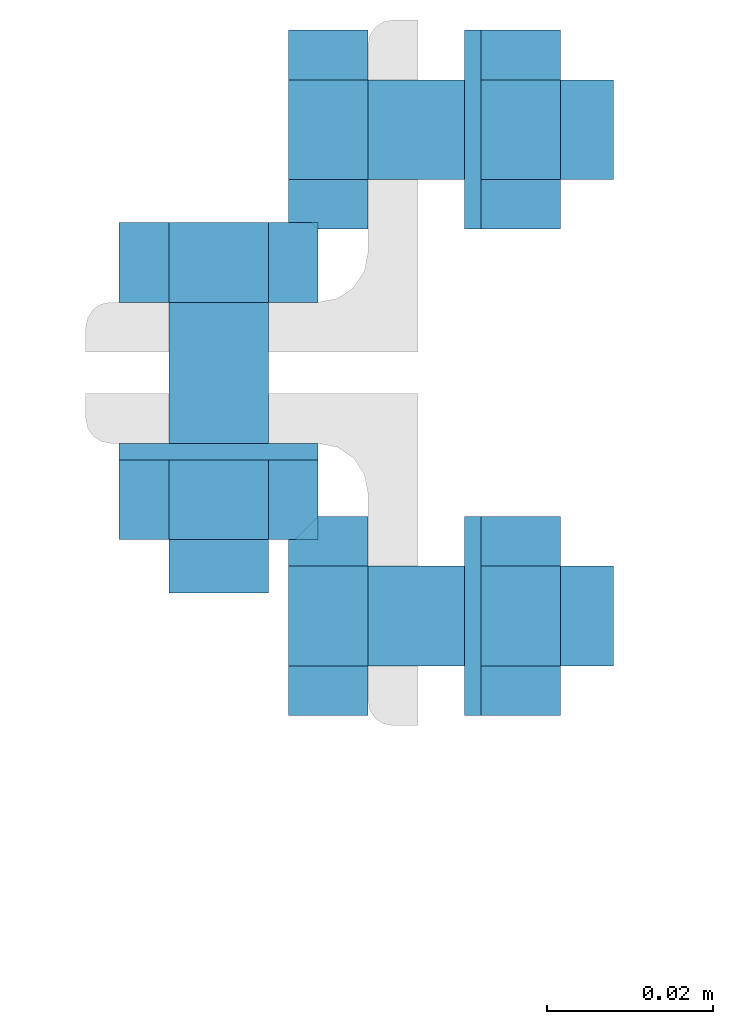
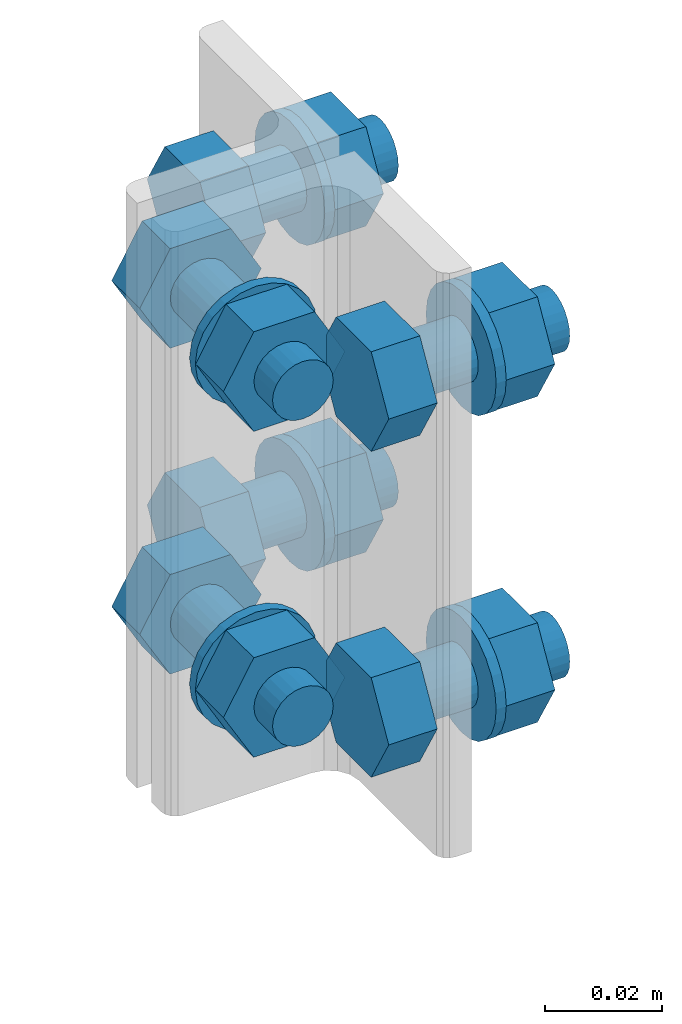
# One storey, part 20 of 20: 32 mechanical fasteners.
"""IFC4 building model written with IfcOpenShell, lengths in metres."""

from ifc_helpers import new_model, si_unit, frame, origin_with_axes, place, context, project, spatial, polyline, outline, extrude, type_object, element, save


model = new_model("IFC4")

# Units and contexts
model_context = context("Model", 3, precision=1e-05, world=origin_with_axes())
ifc_project = project(units=[si_unit("LENGTHUNIT", "METRE"), si_unit("AREAUNIT", "SQUARE_METRE"), si_unit("VOLUMEUNIT", "CUBIC_METRE"), si_unit("MASSUNIT", "GRAM", prefix="KILO"), si_unit("TIMEUNIT", "SECOND"), si_unit("PLANEANGLEUNIT", "RADIAN"), si_unit("SOLIDANGLEUNIT", "STERADIAN"), si_unit("THERMODYNAMICTEMPERATUREUNIT", "DEGREE_CELSIUS")], contexts=[model_context])

# Site, building, storey
placement_1 = place(None, origin_with_axes())
site = spatial("IfcSite", under=ifc_project, at=placement_1, Name="Italia", CompositionType="ELEMENT")
building = spatial("IfcBuilding", under=site, at=placement_1, Name="Tettoia", CompositionType="ELEMENT")
storey = spatial("IfcBuildingStorey", under=building, at=placement_1, Name="Storey 0", CompositionType="ELEMENT", Elevation=0.0)

# Mechanical fasteners
mechanical_fastener_type_1 = type_object("IfcMechanicalFastenerType", Name="Collegamento 0125_0124", PredefinedType="BOLT")
placement_2 = place(placement_1, origin_with_axes())
mechanical_fastener_1_placement = place(placement_2, origin_with_axes())
element("IfcMechanicalFastener", 1, at=mechanical_fastener_1_placement, inside=storey, type_object=mechanical_fastener_type_1, Name="Collegamento 0125_0124", NominalDiameter=0.0119997, context=model_context, shape_type="SweptSolid", body=[
    extrude(outline(polyline([(0.0, 0.0), (-0.0120001, 0.0), (-0.0180001, 0.0103922), (-0.0120001, 0.0207844), (0.0, 0.0207844), (0.00599957, 0.0103922), (0.0, 0.0)])), frame((4.0372, 21.0285, 4.25561), z_axis=(0.0, 1.0, 0.0), x_axis=(-1.0, 0.0, 0.0)), (0.0, 0.0, 1.0), 0.00960159),
])
mechanical_fastener_type_2 = type_object("IfcMechanicalFastenerType", Name="Collegamento 0125_0124", PredefinedType="BOLT")
mechanical_fastener_2_placement = place(placement_2, origin_with_axes())
element("IfcMechanicalFastener", 2, at=mechanical_fastener_2_placement, inside=storey, type_object=mechanical_fastener_type_2, Name="Collegamento 0125_0124", NominalDiameter=0.012, context=model_context, shape_type="SweptSolid", body=[
    extrude(outline(polyline([(0.0, 0.0), (-0.000204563, -0.00155306), (-0.000803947, -0.00299978), (-0.00175762, -0.00424242), (-0.00300026, -0.00519609), (-0.00444698, -0.00579548), (-0.00600004, -0.00600004), (-0.0075531, -0.00579548), (-0.00899982, -0.00519609), (-0.0102425, -0.00424242), (-0.0111961, -0.00299978), (-0.0117955, -0.00155306), (-0.0120001, 0.0), (-0.0117955, 0.00155306), (-0.0111961, 0.00299978), (-0.0102425, 0.00424242), (-0.00899982, 0.00519609), (-0.0075531, 0.00579548), (-0.00600004, 0.00600004), (-0.00444698, 0.00579548), (-0.00300026, 0.00519609), (-0.00175762, 0.00424242), (-0.000803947, 0.00299978), (-0.000204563, 0.00155306), (0.0, 0.0)])), frame((4.0372, 20.9935, 4.266), z_axis=(0.0, 1.0, 0.0), x_axis=(-1.0, 0.0, 0.0)), (0.0, 0.0, 1.0), 0.0349998),
])
mechanical_fastener_type_3 = type_object("IfcMechanicalFastenerType", Name="Collegamento 0125_0124", PredefinedType="BOLT")
mechanical_fastener_3_placement = place(placement_2, origin_with_axes())
element("IfcMechanicalFastener", 3, at=mechanical_fastener_3_placement, inside=storey, type_object=mechanical_fastener_type_3, Name="Collegamento 0125_0124", NominalDiameter=0.0119997, context=model_context, shape_type="SweptSolid", body=[
    extrude(outline(polyline([(0.0, 0.0), (-0.0120001, 0.0), (-0.0180001, 0.0103922), (-0.0120001, 0.0207844), (0.0, 0.0207844), (0.00599957, 0.0103922), (0.0, 0.0)])), frame((4.0372, 20.9999, 4.25561), z_axis=(0.0, 1.0, 0.0), x_axis=(-1.0, 0.0, 0.0)), (0.0, 0.0, 1.0), 0.00959969),
])
mechanical_fastener_type_4 = type_object("IfcMechanicalFastenerType", Name="Collegamento 0125_0124", PredefinedType="BOLT")
mechanical_fastener_4_placement = place(placement_2, origin_with_axes())
element("IfcMechanicalFastener", 4, at=mechanical_fastener_4_placement, inside=storey, type_object=mechanical_fastener_type_4, Name="Collegamento 0125_0124", NominalDiameter=0.024, context=model_context, shape_type="SweptSolid", body=[
    extrude(outline(polyline([(0.0, 0.0), (-0.000409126, -0.00310564), (-0.00160789, -0.00600004), (-0.00351477, -0.00848532), (-0.00600004, -0.0103922), (-0.00889444, -0.011591), (-0.0120001, -0.0120001), (-0.0151057, -0.011591), (-0.0180001, -0.0103922), (-0.0204854, -0.00848532), (-0.0223923, -0.00600004), (-0.023591, -0.00310564), (-0.0240002, 0.0), (-0.023591, 0.00310564), (-0.0223923, 0.00600004), (-0.0204854, 0.00848532), (-0.0180001, 0.0103922), (-0.0151057, 0.011591), (-0.0120001, 0.0120001), (-0.00889444, 0.011591), (-0.00600004, 0.0103922), (-0.00351477, 0.00848532), (-0.00160789, 0.00600004), (-0.000409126, 0.00310564), (0.0, 0.0)])), frame((4.0312, 21.0095, 4.266), z_axis=(0.0, 1.0, 0.0), x_axis=(-1.0, 0.0, 0.0)), (0.0, 0.0, 1.0), 0.00200081),
])
mechanical_fastener_type_5 = type_object("IfcMechanicalFastenerType", Name="Collegamento 0125_0124", PredefinedType="BOLT")
mechanical_fastener_5_placement = place(placement_2, origin_with_axes())
element("IfcMechanicalFastener", 5, at=mechanical_fastener_5_placement, inside=storey, type_object=mechanical_fastener_type_5, Name="Collegamento 0125_0124", NominalDiameter=0.0119997, context=model_context, shape_type="SweptSolid", body=[
    extrude(outline(polyline([(0.0, 0.0), (-0.0120001, 0.0), (-0.0180001, 0.0103922), (-0.0120001, 0.0207844), (0.0, 0.0207844), (0.00599957, 0.0103922), (0.0, 0.0)])), frame((4.0372, 21.0285, 4.32361), z_axis=(0.0, 1.0, 0.0), x_axis=(-1.0, 0.0, 0.0)), (0.0, 0.0, 1.0), 0.00960159),
])
mechanical_fastener_type_6 = type_object("IfcMechanicalFastenerType", Name="Collegamento 0125_0124", PredefinedType="BOLT")
mechanical_fastener_6_placement = place(placement_2, origin_with_axes())
element("IfcMechanicalFastener", 6, at=mechanical_fastener_6_placement, inside=storey, type_object=mechanical_fastener_type_6, Name="Collegamento 0125_0124", NominalDiameter=0.012, context=model_context, shape_type="SweptSolid", body=[
    extrude(outline(polyline([(0.0, 0.0), (-0.000204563, -0.00155306), (-0.000803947, -0.00299978), (-0.00175762, -0.00424242), (-0.00300026, -0.00519609), (-0.00444698, -0.00579548), (-0.00600004, -0.00600004), (-0.0075531, -0.00579548), (-0.00899982, -0.00519609), (-0.0102425, -0.00424242), (-0.0111961, -0.00299978), (-0.0117955, -0.00155306), (-0.0120001, 0.0), (-0.0117955, 0.00155306), (-0.0111961, 0.00299978), (-0.0102425, 0.00424242), (-0.00899982, 0.00519609), (-0.0075531, 0.00579548), (-0.00600004, 0.00600004), (-0.00444698, 0.00579548), (-0.00300026, 0.00519609), (-0.00175762, 0.00424242), (-0.000803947, 0.00299978), (-0.000204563, 0.00155306), (0.0, 0.0)])), frame((4.0372, 20.9935, 4.334), z_axis=(0.0, 1.0, 0.0), x_axis=(-1.0, 0.0, 0.0)), (0.0, 0.0, 1.0), 0.0349998),
])
mechanical_fastener_type_7 = type_object("IfcMechanicalFastenerType", Name="Collegamento 0125_0124", PredefinedType="BOLT")
mechanical_fastener_7_placement = place(placement_2, origin_with_axes())
element("IfcMechanicalFastener", 7, at=mechanical_fastener_7_placement, inside=storey, type_object=mechanical_fastener_type_7, Name="Collegamento 0125_0124", NominalDiameter=0.0119997, context=model_context, shape_type="SweptSolid", body=[
    extrude(outline(polyline([(0.0, 0.0), (-0.0120001, 0.0), (-0.0180001, 0.0103922), (-0.0120001, 0.0207844), (0.0, 0.0207844), (0.00599957, 0.0103922), (0.0, 0.0)])), frame((4.0372, 20.9999, 4.32361), z_axis=(0.0, 1.0, 0.0), x_axis=(-1.0, 0.0, 0.0)), (0.0, 0.0, 1.0), 0.00959969),
])
mechanical_fastener_type_8 = type_object("IfcMechanicalFastenerType", Name="Collegamento 0125_0124", PredefinedType="BOLT")
mechanical_fastener_8_placement = place(placement_2, origin_with_axes())
element("IfcMechanicalFastener", 8, at=mechanical_fastener_8_placement, inside=storey, type_object=mechanical_fastener_type_8, Name="Collegamento 0125_0124", NominalDiameter=0.024, context=model_context, shape_type="SweptSolid", body=[
    extrude(outline(polyline([(0.0, 0.0), (-0.000409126, -0.00310564), (-0.00160789, -0.00600004), (-0.00351477, -0.00848532), (-0.00600004, -0.0103922), (-0.00889444, -0.011591), (-0.0120001, -0.0120001), (-0.0151057, -0.011591), (-0.0180001, -0.0103922), (-0.0204854, -0.00848532), (-0.0223923, -0.00600004), (-0.023591, -0.00310564), (-0.0240002, 0.0), (-0.023591, 0.00310564), (-0.0223923, 0.00600004), (-0.0204854, 0.00848532), (-0.0180001, 0.0103922), (-0.0151057, 0.011591), (-0.0120001, 0.0120001), (-0.00889444, 0.011591), (-0.00600004, 0.0103922), (-0.00351477, 0.00848532), (-0.00160789, 0.00600004), (-0.000409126, 0.00310564), (0.0, 0.0)])), frame((4.0312, 21.0095, 4.334), z_axis=(0.0, 1.0, 0.0), x_axis=(-1.0, 0.0, 0.0)), (0.0, 0.0, 1.0), 0.00200081),
])
mechanical_fastener_type_9 = type_object("IfcMechanicalFastenerType", Name="Collegamento 0125_0124", PredefinedType="BOLT")
mechanical_fastener_9_placement = place(placement_2, origin_with_axes())
element("IfcMechanicalFastener", 9, at=mechanical_fastener_9_placement, inside=storey, type_object=mechanical_fastener_type_9, Name="Collegamento 0125_0124", NominalDiameter=0.0119997, context=model_context, shape_type="SweptSolid", body=[
    extrude(outline(polyline([(0.0, 0.0), (-0.0120001, 0.0), (-0.0180001, 0.0103922), (-0.0120001, 0.0207844), (0.0, 0.0207844), (0.00599957, 0.0103922), (0.0, 0.0)])), frame((4.0372, 21.0285, 4.25561), z_axis=(0.0, 1.0, 0.0), x_axis=(-1.0, 0.0, 0.0)), (0.0, 0.0, 1.0), 0.00960159),
])
mechanical_fastener_type_10 = type_object("IfcMechanicalFastenerType", Name="Collegamento 0125_0124", PredefinedType="BOLT")
mechanical_fastener_10_placement = place(placement_2, origin_with_axes())
element("IfcMechanicalFastener", 10, at=mechanical_fastener_10_placement, inside=storey, type_object=mechanical_fastener_type_10, Name="Collegamento 0125_0124", NominalDiameter=0.012, context=model_context, shape_type="SweptSolid", body=[
    extrude(outline(polyline([(0.0, 0.0), (-0.000204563, -0.00155306), (-0.000803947, -0.00299978), (-0.00175762, -0.00424242), (-0.00300026, -0.00519609), (-0.00444698, -0.00579548), (-0.00600004, -0.00600004), (-0.0075531, -0.00579548), (-0.00899982, -0.00519609), (-0.0102425, -0.00424242), (-0.0111961, -0.00299978), (-0.0117955, -0.00155306), (-0.0120001, 0.0), (-0.0117955, 0.00155306), (-0.0111961, 0.00299978), (-0.0102425, 0.00424242), (-0.00899982, 0.00519609), (-0.0075531, 0.00579548), (-0.00600004, 0.00600004), (-0.00444698, 0.00579548), (-0.00300026, 0.00519609), (-0.00175762, 0.00424242), (-0.000803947, 0.00299978), (-0.000204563, 0.00155306), (0.0, 0.0)])), frame((4.0372, 20.9935, 4.266), z_axis=(0.0, 1.0, 0.0), x_axis=(-1.0, 0.0, 0.0)), (0.0, 0.0, 1.0), 0.0349998),
])
mechanical_fastener_type_11 = type_object("IfcMechanicalFastenerType", Name="Collegamento 0125_0124", PredefinedType="BOLT")
mechanical_fastener_11_placement = place(placement_2, origin_with_axes())
element("IfcMechanicalFastener", 11, at=mechanical_fastener_11_placement, inside=storey, type_object=mechanical_fastener_type_11, Name="Collegamento 0125_0124", NominalDiameter=0.0119997, context=model_context, shape_type="SweptSolid", body=[
    extrude(outline(polyline([(0.0, 0.0), (-0.0120001, 0.0), (-0.0180001, 0.0103922), (-0.0120001, 0.0207844), (0.0, 0.0207844), (0.00599957, 0.0103922), (0.0, 0.0)])), frame((4.0372, 20.9999, 4.25561), z_axis=(0.0, 1.0, 0.0), x_axis=(-1.0, 0.0, 0.0)), (0.0, 0.0, 1.0), 0.00959969),
])
mechanical_fastener_type_12 = type_object("IfcMechanicalFastenerType", Name="Collegamento 0125_0124", PredefinedType="BOLT")
mechanical_fastener_12_placement = place(placement_2, origin_with_axes())
element("IfcMechanicalFastener", 12, at=mechanical_fastener_12_placement, inside=storey, type_object=mechanical_fastener_type_12, Name="Collegamento 0125_0124", NominalDiameter=0.024, context=model_context, shape_type="SweptSolid", body=[
    extrude(outline(polyline([(0.0, 0.0), (-0.000409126, -0.00310564), (-0.00160789, -0.00600004), (-0.00351477, -0.00848532), (-0.00600004, -0.0103922), (-0.00889444, -0.011591), (-0.0120001, -0.0120001), (-0.0151057, -0.011591), (-0.0180001, -0.0103922), (-0.0204854, -0.00848532), (-0.0223923, -0.00600004), (-0.023591, -0.00310564), (-0.0240002, 0.0), (-0.023591, 0.00310564), (-0.0223923, 0.00600004), (-0.0204854, 0.00848532), (-0.0180001, 0.0103922), (-0.0151057, 0.011591), (-0.0120001, 0.0120001), (-0.00889444, 0.011591), (-0.00600004, 0.0103922), (-0.00351477, 0.00848532), (-0.00160789, 0.00600004), (-0.000409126, 0.00310564), (0.0, 0.0)])), frame((4.0312, 21.0095, 4.266), z_axis=(0.0, 1.0, 0.0), x_axis=(-1.0, 0.0, 0.0)), (0.0, 0.0, 1.0), 0.00200081),
])
mechanical_fastener_type_13 = type_object("IfcMechanicalFastenerType", Name="Collegamento 0125_0124", PredefinedType="BOLT")
mechanical_fastener_13_placement = place(placement_2, origin_with_axes())
element("IfcMechanicalFastener", 13, at=mechanical_fastener_13_placement, inside=storey, type_object=mechanical_fastener_type_13, Name="Collegamento 0125_0124", NominalDiameter=0.0119997, context=model_context, shape_type="SweptSolid", body=[
    extrude(outline(polyline([(0.0, 0.0), (-0.0120001, 0.0), (-0.0180001, 0.0103922), (-0.0120001, 0.0207844), (0.0, 0.0207844), (0.00599957, 0.0103922), (0.0, 0.0)])), frame((4.0372, 21.0285, 4.32361), z_axis=(0.0, 1.0, 0.0), x_axis=(-1.0, 0.0, 0.0)), (0.0, 0.0, 1.0), 0.00960159),
])
mechanical_fastener_type_14 = type_object("IfcMechanicalFastenerType", Name="Collegamento 0125_0124", PredefinedType="BOLT")
mechanical_fastener_14_placement = place(placement_2, origin_with_axes())
element("IfcMechanicalFastener", 14, at=mechanical_fastener_14_placement, inside=storey, type_object=mechanical_fastener_type_14, Name="Collegamento 0125_0124", NominalDiameter=0.012, context=model_context, shape_type="SweptSolid", body=[
    extrude(outline(polyline([(0.0, 0.0), (-0.000204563, -0.00155306), (-0.000803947, -0.00299978), (-0.00175762, -0.00424242), (-0.00300026, -0.00519609), (-0.00444698, -0.00579548), (-0.00600004, -0.00600004), (-0.0075531, -0.00579548), (-0.00899982, -0.00519609), (-0.0102425, -0.00424242), (-0.0111961, -0.00299978), (-0.0117955, -0.00155306), (-0.0120001, 0.0), (-0.0117955, 0.00155306), (-0.0111961, 0.00299978), (-0.0102425, 0.00424242), (-0.00899982, 0.00519609), (-0.0075531, 0.00579548), (-0.00600004, 0.00600004), (-0.00444698, 0.00579548), (-0.00300026, 0.00519609), (-0.00175762, 0.00424242), (-0.000803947, 0.00299978), (-0.000204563, 0.00155306), (0.0, 0.0)])), frame((4.0372, 20.9935, 4.334), z_axis=(0.0, 1.0, 0.0), x_axis=(-1.0, 0.0, 0.0)), (0.0, 0.0, 1.0), 0.0349998),
])
mechanical_fastener_type_15 = type_object("IfcMechanicalFastenerType", Name="Collegamento 0125_0124", PredefinedType="BOLT")
mechanical_fastener_15_placement = place(placement_2, origin_with_axes())
element("IfcMechanicalFastener", 15, at=mechanical_fastener_15_placement, inside=storey, type_object=mechanical_fastener_type_15, Name="Collegamento 0125_0124", NominalDiameter=0.0119997, context=model_context, shape_type="SweptSolid", body=[
    extrude(outline(polyline([(0.0, 0.0), (-0.0120001, 0.0), (-0.0180001, 0.0103922), (-0.0120001, 0.0207844), (0.0, 0.0207844), (0.00599957, 0.0103922), (0.0, 0.0)])), frame((4.0372, 20.9999, 4.32361), z_axis=(0.0, 1.0, 0.0), x_axis=(-1.0, 0.0, 0.0)), (0.0, 0.0, 1.0), 0.00959969),
])
mechanical_fastener_type_16 = type_object("IfcMechanicalFastenerType", Name="Collegamento 0125_0124", PredefinedType="BOLT")
mechanical_fastener_16_placement = place(placement_2, origin_with_axes())
element("IfcMechanicalFastener", 16, at=mechanical_fastener_16_placement, inside=storey, type_object=mechanical_fastener_type_16, Name="Collegamento 0125_0124", NominalDiameter=0.024, context=model_context, shape_type="SweptSolid", body=[
    extrude(outline(polyline([(0.0, 0.0), (-0.000409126, -0.00310564), (-0.00160789, -0.00600004), (-0.00351477, -0.00848532), (-0.00600004, -0.0103922), (-0.00889444, -0.011591), (-0.0120001, -0.0120001), (-0.0151057, -0.011591), (-0.0180001, -0.0103922), (-0.0204854, -0.00848532), (-0.0223923, -0.00600004), (-0.023591, -0.00310564), (-0.0240002, 0.0), (-0.023591, 0.00310564), (-0.0223923, 0.00600004), (-0.0204854, 0.00848532), (-0.0180001, 0.0103922), (-0.0151057, 0.011591), (-0.0120001, 0.0120001), (-0.00889444, 0.011591), (-0.00600004, 0.0103922), (-0.00351477, 0.00848532), (-0.00160789, 0.00600004), (-0.000409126, 0.00310564), (0.0, 0.0)])), frame((4.0312, 21.0095, 4.334), z_axis=(0.0, 1.0, 0.0), x_axis=(-1.0, 0.0, 0.0)), (0.0, 0.0, 1.0), 0.00200081),
])
mechanical_fastener_type_17 = type_object("IfcMechanicalFastenerType", Name="Collegamento 0125_0124", PredefinedType="BOLT")
mechanical_fastener_17_placement = place(placement_2, origin_with_axes())
element("IfcMechanicalFastener", 17, at=mechanical_fastener_17_placement, inside=storey, type_object=mechanical_fastener_type_17, Name="Collegamento 0125_0124", NominalDiameter=0.0119991, context=model_context, shape_type="SweptSolid", body=[
    extrude(outline(polyline([(0.0, 0.0), (-0.0119991, 0.0), (-0.0179996, 0.0103922), (-0.0119991, 0.0207844), (0.0, 0.0207844), (0.00600052, 0.0103922), (0.0, 0.0)])), frame((4.0612, 20.9847, 4.25561), z_axis=(-1.0, 0.0, 0.0), x_axis=(0.0, -1.0, 0.0)), (0.0, 0.0, 1.0), 0.00960016),
])
mechanical_fastener_type_18 = type_object("IfcMechanicalFastenerType", Name="Collegamento 0125_0124", PredefinedType="BOLT")
mechanical_fastener_18_placement = place(placement_2, origin_with_axes())
element("IfcMechanicalFastener", 18, at=mechanical_fastener_18_placement, inside=storey, type_object=mechanical_fastener_type_18, Name="Collegamento 0125_0124", NominalDiameter=0.012, context=model_context, shape_type="SweptSolid", body=[
    extrude(outline(polyline([(0.0, 0.0), (-0.000204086, -0.00155306), (-0.000804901, -0.00299978), (-0.00175858, -0.00424242), (-0.00300026, -0.00519609), (-0.00444794, -0.00579548), (-0.00600052, -0.00600004), (-0.0075531, -0.00579548), (-0.00900078, -0.00519609), (-0.0102425, -0.00424242), (-0.0111961, -0.00299978), (-0.011797, -0.00155306), (-0.012001, 0.0), (-0.011797, 0.00155306), (-0.0111961, 0.00299978), (-0.0102425, 0.00424242), (-0.00900078, 0.00519609), (-0.0075531, 0.00579548), (-0.00600052, 0.00600004), (-0.00444794, 0.00579548), (-0.00300026, 0.00519609), (-0.00175858, 0.00424242), (-0.000804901, 0.00299978), (-0.000204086, 0.00155306), (0.0, 0.0)])), frame((4.0908, 20.9847, 4.266), z_axis=(-1.0, 0.0, 0.0), x_axis=(0.0, -1.0, 0.0)), (0.0, 0.0, 1.0), 0.0296001),
])
mechanical_fastener_type_19 = type_object("IfcMechanicalFastenerType", Name="Collegamento 0125_0124", PredefinedType="BOLT")
mechanical_fastener_19_placement = place(placement_2, origin_with_axes())
element("IfcMechanicalFastener", 19, at=mechanical_fastener_19_placement, inside=storey, type_object=mechanical_fastener_type_19, Name="Collegamento 0125_0124", NominalDiameter=0.0119991, context=model_context, shape_type="SweptSolid", body=[
    extrude(outline(polyline([(0.0, 0.0), (-0.0119991, 0.0), (-0.0179996, 0.0103922), (-0.0119991, 0.0207844), (0.0, 0.0207844), (0.00600052, 0.0103922), (0.0, 0.0)])), frame((4.0844, 20.9847, 4.25561), z_axis=(-1.0, 0.0, 0.0), x_axis=(0.0, -1.0, 0.0)), (0.0, 0.0, 1.0), 0.00960016),
])
mechanical_fastener_type_20 = type_object("IfcMechanicalFastenerType", Name="Collegamento 0125_0124", PredefinedType="BOLT")
mechanical_fastener_20_placement = place(placement_2, origin_with_axes())
element("IfcMechanicalFastener", 20, at=mechanical_fastener_20_placement, inside=storey, type_object=mechanical_fastener_type_20, Name="Collegamento 0125_0124", NominalDiameter=0.024, context=model_context, shape_type="SweptSolid", body=[
    extrude(outline(polyline([(0.0, 0.0), (-0.000408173, -0.00310564), (-0.00160599, -0.00600004), (-0.00351334, -0.00848532), (-0.00599861, -0.0103922), (-0.00889397, -0.011591), (-0.0119991, -0.0120001), (-0.0151043, -0.011591), (-0.0179996, -0.0103922), (-0.0204849, -0.00848532), (-0.0223923, -0.00600004), (-0.0235901, -0.00310564), (-0.0239983, 0.0), (-0.0235901, 0.00310564), (-0.0223923, 0.00600004), (-0.0204849, 0.00848532), (-0.0179996, 0.0103922), (-0.0151043, 0.011591), (-0.0119991, 0.0120001), (-0.00889397, 0.011591), (-0.00599861, 0.0103922), (-0.00351334, 0.00848532), (-0.00160599, 0.00600004), (-0.000408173, 0.00310564), (0.0, 0.0)])), frame((4.0748, 20.9787, 4.266), z_axis=(-1.0, 0.0, 0.0), x_axis=(0.0, -1.0, 0.0)), (0.0, 0.0, 1.0), 0.00199986),
])
mechanical_fastener_type_21 = type_object("IfcMechanicalFastenerType", Name="Collegamento 0125_0124", PredefinedType="BOLT")
mechanical_fastener_21_placement = place(placement_2, origin_with_axes())
element("IfcMechanicalFastener", 21, at=mechanical_fastener_21_placement, inside=storey, type_object=mechanical_fastener_type_21, Name="Collegamento 0125_0124", NominalDiameter=0.0119991, context=model_context, shape_type="SweptSolid", body=[
    extrude(outline(polyline([(0.0, 0.0), (-0.0119991, 0.0), (-0.0179996, 0.0103922), (-0.0119991, 0.0207844), (0.0, 0.0207844), (0.00600052, 0.0103922), (0.0, 0.0)])), frame((4.0612, 20.9847, 4.32361), z_axis=(-1.0, 0.0, 0.0), x_axis=(0.0, -1.0, 0.0)), (0.0, 0.0, 1.0), 0.00960016),
])
mechanical_fastener_type_22 = type_object("IfcMechanicalFastenerType", Name="Collegamento 0125_0124", PredefinedType="BOLT")
mechanical_fastener_22_placement = place(placement_2, origin_with_axes())
element("IfcMechanicalFastener", 22, at=mechanical_fastener_22_placement, inside=storey, type_object=mechanical_fastener_type_22, Name="Collegamento 0125_0124", NominalDiameter=0.012, context=model_context, shape_type="SweptSolid", body=[
    extrude(outline(polyline([(0.0, 0.0), (-0.000204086, -0.00155306), (-0.000804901, -0.00299978), (-0.00175858, -0.00424242), (-0.00300026, -0.00519609), (-0.00444794, -0.00579548), (-0.00600052, -0.00600004), (-0.0075531, -0.00579548), (-0.00900078, -0.00519609), (-0.0102425, -0.00424242), (-0.0111961, -0.00299978), (-0.011797, -0.00155306), (-0.012001, 0.0), (-0.011797, 0.00155306), (-0.0111961, 0.00299978), (-0.0102425, 0.00424242), (-0.00900078, 0.00519609), (-0.0075531, 0.00579548), (-0.00600052, 0.00600004), (-0.00444794, 0.00579548), (-0.00300026, 0.00519609), (-0.00175858, 0.00424242), (-0.000804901, 0.00299978), (-0.000204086, 0.00155306), (0.0, 0.0)])), frame((4.0908, 20.9847, 4.334), z_axis=(-1.0, 0.0, 0.0), x_axis=(0.0, -1.0, 0.0)), (0.0, 0.0, 1.0), 0.0296001),
])
mechanical_fastener_type_23 = type_object("IfcMechanicalFastenerType", Name="Collegamento 0125_0124", PredefinedType="BOLT")
mechanical_fastener_23_placement = place(placement_2, origin_with_axes())
element("IfcMechanicalFastener", 23, at=mechanical_fastener_23_placement, inside=storey, type_object=mechanical_fastener_type_23, Name="Collegamento 0125_0124", NominalDiameter=0.0119991, context=model_context, shape_type="SweptSolid", body=[
    extrude(outline(polyline([(0.0, 0.0), (-0.0119991, 0.0), (-0.0179996, 0.0103922), (-0.0119991, 0.0207844), (0.0, 0.0207844), (0.00600052, 0.0103922), (0.0, 0.0)])), frame((4.0844, 20.9847, 4.32361), z_axis=(-1.0, 0.0, 0.0), x_axis=(0.0, -1.0, 0.0)), (0.0, 0.0, 1.0), 0.00960016),
])
mechanical_fastener_type_24 = type_object("IfcMechanicalFastenerType", Name="Collegamento 0125_0124", PredefinedType="BOLT")
mechanical_fastener_24_placement = place(placement_2, origin_with_axes())
element("IfcMechanicalFastener", 24, at=mechanical_fastener_24_placement, inside=storey, type_object=mechanical_fastener_type_24, Name="Collegamento 0125_0124", NominalDiameter=0.024, context=model_context, shape_type="SweptSolid", body=[
    extrude(outline(polyline([(0.0, 0.0), (-0.000408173, -0.00310564), (-0.00160599, -0.00600004), (-0.00351334, -0.00848532), (-0.00599861, -0.0103922), (-0.00889397, -0.011591), (-0.0119991, -0.0120001), (-0.0151043, -0.011591), (-0.0179996, -0.0103922), (-0.0204849, -0.00848532), (-0.0223923, -0.00600004), (-0.0235901, -0.00310564), (-0.0239983, 0.0), (-0.0235901, 0.00310564), (-0.0223923, 0.00600004), (-0.0204849, 0.00848532), (-0.0179996, 0.0103922), (-0.0151043, 0.011591), (-0.0119991, 0.0120001), (-0.00889397, 0.011591), (-0.00599861, 0.0103922), (-0.00351334, 0.00848532), (-0.00160599, 0.00600004), (-0.000408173, 0.00310564), (0.0, 0.0)])), frame((4.0748, 20.9787, 4.334), z_axis=(-1.0, 0.0, 0.0), x_axis=(0.0, -1.0, 0.0)), (0.0, 0.0, 1.0), 0.00199986),
])
mechanical_fastener_type_25 = type_object("IfcMechanicalFastenerType", Name="Collegamento 0125_0124", PredefinedType="BOLT")
mechanical_fastener_25_placement = place(placement_2, origin_with_axes())
element("IfcMechanicalFastener", 25, at=mechanical_fastener_25_placement, inside=storey, type_object=mechanical_fastener_type_25, Name="Collegamento 0125_0124", NominalDiameter=0.0119991, context=model_context, shape_type="SweptSolid", body=[
    extrude(outline(polyline([(0.0, 0.0), (-0.0119991, 0.0), (-0.0179996, 0.0103922), (-0.0119991, 0.0207844), (0.0, 0.0207844), (0.00600052, 0.0103922), (0.0, 0.0)])), frame((4.0516, 21.0553, 4.25561), z_axis=(1.0, 0.0, 0.0), x_axis=(0.0, 1.0, 0.0)), (0.0, 0.0, 1.0), 0.00960016),
])
mechanical_fastener_type_26 = type_object("IfcMechanicalFastenerType", Name="Collegamento 0125_0124", PredefinedType="BOLT")
mechanical_fastener_26_placement = place(placement_2, origin_with_axes())
element("IfcMechanicalFastener", 26, at=mechanical_fastener_26_placement, inside=storey, type_object=mechanical_fastener_type_26, Name="Collegamento 0125_0124", NominalDiameter=0.012, context=model_context, shape_type="SweptSolid", body=[
    extrude(outline(polyline([(0.0, 0.0), (-0.000204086, -0.00155306), (-0.000804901, -0.00299978), (-0.00175858, -0.00424242), (-0.00300026, -0.00519609), (-0.00444794, -0.00579548), (-0.00600052, -0.00600004), (-0.0075531, -0.00579548), (-0.00900078, -0.00519609), (-0.0102425, -0.00424242), (-0.0111961, -0.00299978), (-0.011797, -0.00155306), (-0.012001, 0.0), (-0.011797, 0.00155306), (-0.0111961, 0.00299978), (-0.0102425, 0.00424242), (-0.00900078, 0.00519609), (-0.0075531, 0.00579548), (-0.00600052, 0.00600004), (-0.00444794, 0.00579548), (-0.00300026, 0.00519609), (-0.00175858, 0.00424242), (-0.000804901, 0.00299978), (-0.000204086, 0.00155306), (0.0, 0.0)])), frame((4.0612, 21.0553, 4.266), z_axis=(1.0, 0.0, 0.0), x_axis=(0.0, 1.0, 0.0)), (0.0, 0.0, 1.0), 0.0296001),
])
mechanical_fastener_type_27 = type_object("IfcMechanicalFastenerType", Name="Collegamento 0125_0124", PredefinedType="BOLT")
mechanical_fastener_27_placement = place(placement_2, origin_with_axes())
element("IfcMechanicalFastener", 27, at=mechanical_fastener_27_placement, inside=storey, type_object=mechanical_fastener_type_27, Name="Collegamento 0125_0124", NominalDiameter=0.0119991, context=model_context, shape_type="SweptSolid", body=[
    extrude(outline(polyline([(0.0, 0.0), (-0.0119991, 0.0), (-0.0179996, 0.0103922), (-0.0119991, 0.0207844), (0.0, 0.0207844), (0.00600052, 0.0103922), (0.0, 0.0)])), frame((4.0748, 21.0553, 4.25561), z_axis=(1.0, 0.0, 0.0), x_axis=(0.0, 1.0, 0.0)), (0.0, 0.0, 1.0), 0.00960016),
])
mechanical_fastener_type_28 = type_object("IfcMechanicalFastenerType", Name="Collegamento 0125_0124", PredefinedType="BOLT")
mechanical_fastener_28_placement = place(placement_2, origin_with_axes())
element("IfcMechanicalFastener", 28, at=mechanical_fastener_28_placement, inside=storey, type_object=mechanical_fastener_type_28, Name="Collegamento 0125_0124", NominalDiameter=0.024, context=model_context, shape_type="SweptSolid", body=[
    extrude(outline(polyline([(0.0, 0.0), (-0.000408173, -0.00310564), (-0.00160599, -0.00600004), (-0.00351334, -0.00848532), (-0.00599861, -0.0103922), (-0.00889397, -0.011591), (-0.0119991, -0.0120001), (-0.0151043, -0.011591), (-0.0179996, -0.0103922), (-0.0204849, -0.00848532), (-0.0223923, -0.00600004), (-0.0235901, -0.00310564), (-0.0239983, 0.0), (-0.0235901, 0.00310564), (-0.0223923, 0.00600004), (-0.0204849, 0.00848532), (-0.0179996, 0.0103922), (-0.0151043, 0.011591), (-0.0119991, 0.0120001), (-0.00889397, 0.011591), (-0.00599861, 0.0103922), (-0.00351334, 0.00848532), (-0.00160599, 0.00600004), (-0.000408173, 0.00310564), (0.0, 0.0)])), frame((4.0728, 21.0613, 4.266), z_axis=(1.0, 0.0, 0.0), x_axis=(0.0, 1.0, 0.0)), (0.0, 0.0, 1.0), 0.00199986),
])
mechanical_fastener_type_29 = type_object("IfcMechanicalFastenerType", Name="Collegamento 0125_0124", PredefinedType="BOLT")
mechanical_fastener_29_placement = place(placement_2, origin_with_axes())
element("IfcMechanicalFastener", 29, at=mechanical_fastener_29_placement, inside=storey, type_object=mechanical_fastener_type_29, Name="Collegamento 0125_0124", NominalDiameter=0.0119991, context=model_context, shape_type="SweptSolid", body=[
    extrude(outline(polyline([(0.0, 0.0), (-0.0119991, 0.0), (-0.0179996, 0.0103922), (-0.0119991, 0.0207844), (0.0, 0.0207844), (0.00600052, 0.0103922), (0.0, 0.0)])), frame((4.0516, 21.0553, 4.32361), z_axis=(1.0, 0.0, 0.0), x_axis=(0.0, 1.0, 0.0)), (0.0, 0.0, 1.0), 0.00960016),
])
mechanical_fastener_type_30 = type_object("IfcMechanicalFastenerType", Name="Collegamento 0125_0124", PredefinedType="BOLT")
mechanical_fastener_30_placement = place(placement_2, origin_with_axes())
element("IfcMechanicalFastener", 30, at=mechanical_fastener_30_placement, inside=storey, type_object=mechanical_fastener_type_30, Name="Collegamento 0125_0124", NominalDiameter=0.012, context=model_context, shape_type="SweptSolid", body=[
    extrude(outline(polyline([(0.0, 0.0), (-0.000204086, -0.00155306), (-0.000804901, -0.00299978), (-0.00175858, -0.00424242), (-0.00300026, -0.00519609), (-0.00444794, -0.00579548), (-0.00600052, -0.00600004), (-0.0075531, -0.00579548), (-0.00900078, -0.00519609), (-0.0102425, -0.00424242), (-0.0111961, -0.00299978), (-0.011797, -0.00155306), (-0.012001, 0.0), (-0.011797, 0.00155306), (-0.0111961, 0.00299978), (-0.0102425, 0.00424242), (-0.00900078, 0.00519609), (-0.0075531, 0.00579548), (-0.00600052, 0.00600004), (-0.00444794, 0.00579548), (-0.00300026, 0.00519609), (-0.00175858, 0.00424242), (-0.000804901, 0.00299978), (-0.000204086, 0.00155306), (0.0, 0.0)])), frame((4.0612, 21.0553, 4.334), z_axis=(1.0, 0.0, 0.0), x_axis=(0.0, 1.0, 0.0)), (0.0, 0.0, 1.0), 0.0296001),
])
mechanical_fastener_type_31 = type_object("IfcMechanicalFastenerType", Name="Collegamento 0125_0124", PredefinedType="BOLT")
mechanical_fastener_31_placement = place(placement_2, origin_with_axes())
element("IfcMechanicalFastener", 31, at=mechanical_fastener_31_placement, inside=storey, type_object=mechanical_fastener_type_31, Name="Collegamento 0125_0124", NominalDiameter=0.0119991, context=model_context, shape_type="SweptSolid", body=[
    extrude(outline(polyline([(0.0, 0.0), (-0.0119991, 0.0), (-0.0179996, 0.0103922), (-0.0119991, 0.0207844), (0.0, 0.0207844), (0.00600052, 0.0103922), (0.0, 0.0)])), frame((4.0748, 21.0553, 4.32361), z_axis=(1.0, 0.0, 0.0), x_axis=(0.0, 1.0, 0.0)), (0.0, 0.0, 1.0), 0.00960016),
])
mechanical_fastener_type_32 = type_object("IfcMechanicalFastenerType", Name="Collegamento 0125_0124", PredefinedType="BOLT")
mechanical_fastener_32_placement = place(placement_2, origin_with_axes())
element("IfcMechanicalFastener", 32, at=mechanical_fastener_32_placement, inside=storey, type_object=mechanical_fastener_type_32, Name="Collegamento 0125_0124", NominalDiameter=0.024, context=model_context, shape_type="SweptSolid", body=[
    extrude(outline(polyline([(0.0, 0.0), (-0.000408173, -0.00310564), (-0.00160599, -0.00600004), (-0.00351334, -0.00848532), (-0.00599861, -0.0103922), (-0.00889397, -0.011591), (-0.0119991, -0.0120001), (-0.0151043, -0.011591), (-0.0179996, -0.0103922), (-0.0204849, -0.00848532), (-0.0223923, -0.00600004), (-0.0235901, -0.00310564), (-0.0239983, 0.0), (-0.0235901, 0.00310564), (-0.0223923, 0.00600004), (-0.0204849, 0.00848532), (-0.0179996, 0.0103922), (-0.0151043, 0.011591), (-0.0119991, 0.0120001), (-0.00889397, 0.011591), (-0.00599861, 0.0103922), (-0.00351334, 0.00848532), (-0.00160599, 0.00600004), (-0.000408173, 0.00310564), (0.0, 0.0)])), frame((4.0728, 21.0613, 4.334), z_axis=(1.0, 0.0, 0.0), x_axis=(0.0, 1.0, 0.0)), (0.0, 0.0, 1.0), 0.00199986),
])

save(model, "model.ifc")
